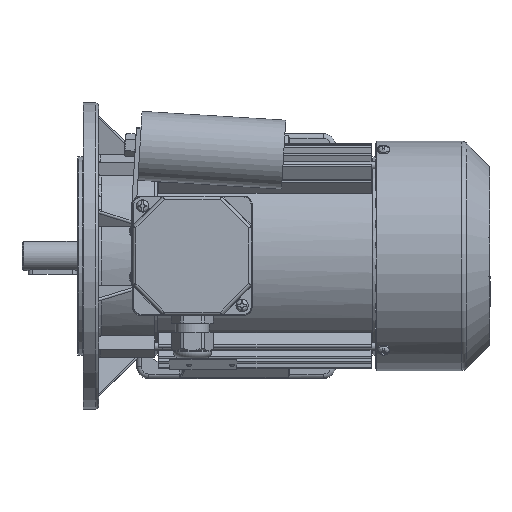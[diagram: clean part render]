
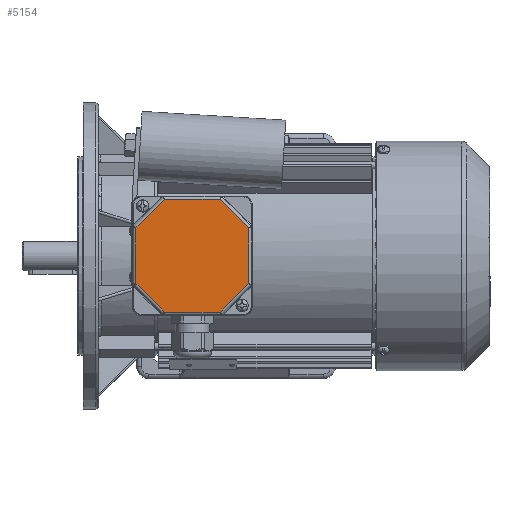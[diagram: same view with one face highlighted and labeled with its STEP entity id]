
A CAD part, top view. The second image highlights one B-rep face of the part: STEP entity #5154.
In plain terms, the highlighted planar face has unit normal (0, 0, 1).
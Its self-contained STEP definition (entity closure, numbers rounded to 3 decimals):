
#5154 = ADVANCED_FACE( '', ( #11207 ), #11208, .T. );
#11207 = FACE_OUTER_BOUND( '', #25758, .T. );
#11208 = PLANE( '', #25759 );
#25758 = EDGE_LOOP( '', ( #47214, #47215, #47216, #47217, #47218, #47219, #47220, #47221 ) );
#25759 = AXIS2_PLACEMENT_3D( '', #47222, #47223, #47224 );
#47214 = ORIENTED_EDGE( '', *, *, #61553, .T. );
#47215 = ORIENTED_EDGE( '', *, *, #64203, .T. );
#47216 = ORIENTED_EDGE( '', *, *, #64720, .T. );
#47217 = ORIENTED_EDGE( '', *, *, #63598, .T. );
#47218 = ORIENTED_EDGE( '', *, *, #61811, .T. );
#47219 = ORIENTED_EDGE( '', *, *, #64497, .T. );
#47220 = ORIENTED_EDGE( '', *, *, #63668, .T. );
#47221 = ORIENTED_EDGE( '', *, *, #64721, .T. );
#47222 = CARTESIAN_POINT( '', ( -39., 39., 12. ) );
#47223 = DIRECTION( '', ( 0., 0., 1. ) );
#47224 = DIRECTION( '', ( 1., 0., 0. ) );
#61553 = EDGE_CURVE( '', #72941, #72939, #72942, .F. );
#61811 = EDGE_CURVE( '', #73363, #73364, #73365, .F. );
#63598 = EDGE_CURVE( '', #76246, #73363, #76247, .T. );
#63668 = EDGE_CURVE( '', #76340, #76341, #76342, .F. );
#64203 = EDGE_CURVE( '', #72939, #77149, #77150, .T. );
#64497 = EDGE_CURVE( '', #73364, #76340, #77568, .T. );
#64720 = EDGE_CURVE( '', #77149, #76246, #77878, .F. );
#64721 = EDGE_CURVE( '', #76341, #72941, #77879, .T. );
#72939 = VERTEX_POINT( '', #92350 );
#72941 = VERTEX_POINT( '', #92352 );
#72942 = LINE( '', #92353, #92354 );
#73363 = VERTEX_POINT( '', #93109 );
#73364 = VERTEX_POINT( '', #93110 );
#73365 = LINE( '', #93111, #93112 );
#76246 = VERTEX_POINT( '', #99550 );
#76247 = LINE( '', #99551, #99552 );
#76340 = VERTEX_POINT( '', #99863 );
#76341 = VERTEX_POINT( '', #99864 );
#76342 = LINE( '', #99865, #99866 );
#77149 = VERTEX_POINT( '', #101733 );
#77150 = LINE( '', #101734, #101735 );
#77568 = LINE( '', #102745, #102746 );
#77878 = LINE( '', #103362, #103363 );
#77879 = LINE( '', #103364, #103365 );
#92350 = CARTESIAN_POINT( '', ( 36.825, 18.255, 12. ) );
#92352 = CARTESIAN_POINT( '', ( 36.825, -18.255, 12. ) );
#92353 = CARTESIAN_POINT( '', ( 36.825, 19.069, 12. ) );
#92354 = VECTOR( '', #115033, 1000. );
#93109 = CARTESIAN_POINT( '', ( -36.825, 18.255, 12. ) );
#93110 = CARTESIAN_POINT( '', ( -36.825, -18.255, 12. ) );
#93111 = CARTESIAN_POINT( '', ( -36.825, -19.069, 12. ) );
#93112 = VECTOR( '', #115328, 1000. );
#99550 = CARTESIAN_POINT( '', ( -18.255, 36.825, 12. ) );
#99551 = CARTESIAN_POINT( '', ( -37.401, 17.679, 12. ) );
#99552 = VECTOR( '', #117536, 1000. );
#99863 = CARTESIAN_POINT( '', ( -18.255, -36.825, 12. ) );
#99864 = CARTESIAN_POINT( '', ( 18.255, -36.825, 12. ) );
#99865 = CARTESIAN_POINT( '', ( 19.069, -36.825, 12. ) );
#99866 = VECTOR( '', #117604, 1000. );
#101733 = CARTESIAN_POINT( '', ( 18.255, 36.825, 12. ) );
#101734 = CARTESIAN_POINT( '', ( 17.679, 37.401, 12. ) );
#101735 = VECTOR( '', #118177, 1000. );
#102745 = CARTESIAN_POINT( '', ( -17.679, -37.401, 12. ) );
#102746 = VECTOR( '', #118536, 1000. );
#103362 = CARTESIAN_POINT( '', ( -19.069, 36.825, 12. ) );
#103363 = VECTOR( '', #118795, 1000. );
#103364 = CARTESIAN_POINT( '', ( 37.401, -17.679, 12. ) );
#103365 = VECTOR( '', #118796, 1000. );
#115033 = DIRECTION( '', ( 0., -1., 0. ) );
#115328 = DIRECTION( '', ( 0., 1., 0. ) );
#117536 = DIRECTION( '', ( -0.707, -0.707, 0. ) );
#117604 = DIRECTION( '', ( -1., 0., 0. ) );
#118177 = DIRECTION( '', ( -0.707, 0.707, 0. ) );
#118536 = DIRECTION( '', ( 0.707, -0.707, 0. ) );
#118795 = DIRECTION( '', ( 1., 0., 0. ) );
#118796 = DIRECTION( '', ( 0.707, 0.707, 0. ) );
